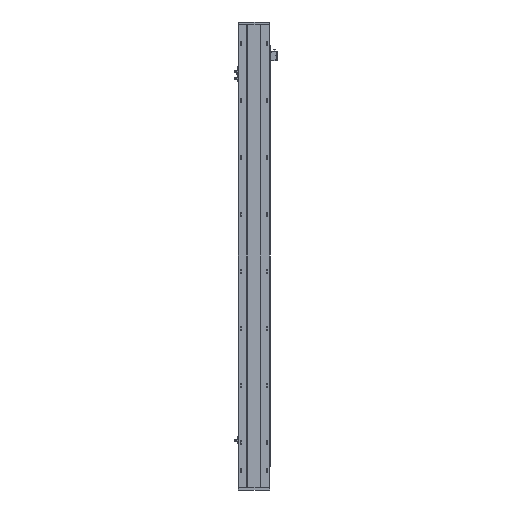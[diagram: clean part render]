
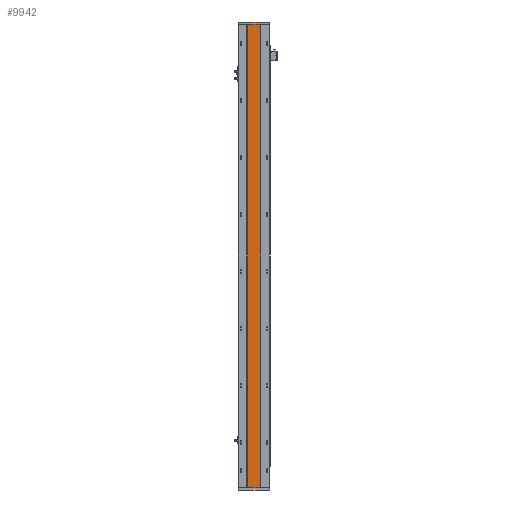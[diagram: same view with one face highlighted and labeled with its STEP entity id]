
A CAD part, front view. The second image highlights one B-rep face of the part: STEP entity #9942.
In plain terms, the highlighted planar face has unit normal (0, -1, 0).
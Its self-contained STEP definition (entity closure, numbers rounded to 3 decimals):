
#1165 = PLANE ( 'NONE',  #2200 ) ;
#1279 = CARTESIAN_POINT ( 'NONE',  ( 133.07, 115.96, 0. ) ) ;
#2200 = AXIS2_PLACEMENT_3D ( 'NONE', #7976, #21859, #21765 ) ;
#2782 = VECTOR ( 'NONE', #11045, 1000. ) ;
#3305 = CARTESIAN_POINT ( 'NONE',  ( 133.07, 115.96, 1756. ) ) ;
#3556 = LINE ( 'NONE', #4173, #26769 ) ;
#4173 = CARTESIAN_POINT ( 'NONE',  ( 0., 115.96, 1756. ) ) ;
#5775 = VERTEX_POINT ( 'NONE', #1279 ) ;
#7852 = DIRECTION ( 'NONE',  ( 1., 0., 0. ) ) ;
#7976 = CARTESIAN_POINT ( 'NONE',  ( 0., 115.96, 1756. ) ) ;
#9269 = EDGE_CURVE ( 'NONE', #12746, #5775, #14402, .T. ) ;
#9942 = ADVANCED_FACE ( 'NONE', ( #29344 ), #1165, .F. ) ;
#10339 = EDGE_CURVE ( 'NONE', #5775, #12477, #21816, .T. ) ;
#11045 = DIRECTION ( 'NONE',  ( 0., 0., -1. ) ) ;
#11285 = EDGE_LOOP ( 'NONE', ( #21541, #25387, #20719, #15543 ) ) ;
#11766 = LINE ( 'NONE', #26888, #2782 ) ;
#11875 = EDGE_CURVE ( 'NONE', #12746, #25056, #3556, .T. ) ;
#12477 = VERTEX_POINT ( 'NONE', #22929 ) ;
#12514 = CARTESIAN_POINT ( 'NONE',  ( 133.07, 115.96, 1756. ) ) ;
#12746 = VERTEX_POINT ( 'NONE', #3305 ) ;
#14402 = LINE ( 'NONE', #12514, #26877 ) ;
#15543 = ORIENTED_EDGE ( 'NONE', *, *, #9269, .T. ) ;
#17026 = DIRECTION ( 'NONE',  ( 0., 0., -1. ) ) ;
#18286 = VECTOR ( 'NONE', #7852, 1000. ) ;
#20149 = DIRECTION ( 'NONE',  ( 1., 0., 0. ) ) ;
#20719 = ORIENTED_EDGE ( 'NONE', *, *, #11875, .F. ) ;
#21541 = ORIENTED_EDGE ( 'NONE', *, *, #10339, .T. ) ;
#21565 = EDGE_CURVE ( 'NONE', #25056, #12477, #11766, .T. ) ;
#21765 = DIRECTION ( 'NONE',  ( -1., 0., 0. ) ) ;
#21816 = LINE ( 'NONE', #27605, #18286 ) ;
#21859 = DIRECTION ( 'NONE',  ( 0., 1., 0. ) ) ;
#22929 = CARTESIAN_POINT ( 'NONE',  ( 183.063, 115.96, 0. ) ) ;
#23415 = CARTESIAN_POINT ( 'NONE',  ( 183.063, 115.96, 1756. ) ) ;
#25056 = VERTEX_POINT ( 'NONE', #23415 ) ;
#25387 = ORIENTED_EDGE ( 'NONE', *, *, #21565, .F. ) ;
#26769 = VECTOR ( 'NONE', #20149, 1000. ) ;
#26877 = VECTOR ( 'NONE', #17026, 1000. ) ;
#26888 = CARTESIAN_POINT ( 'NONE',  ( 183.063, 115.96, 1756. ) ) ;
#27605 = CARTESIAN_POINT ( 'NONE',  ( 0., 115.96, 0. ) ) ;
#29344 = FACE_OUTER_BOUND ( 'NONE', #11285, .T. ) ;
